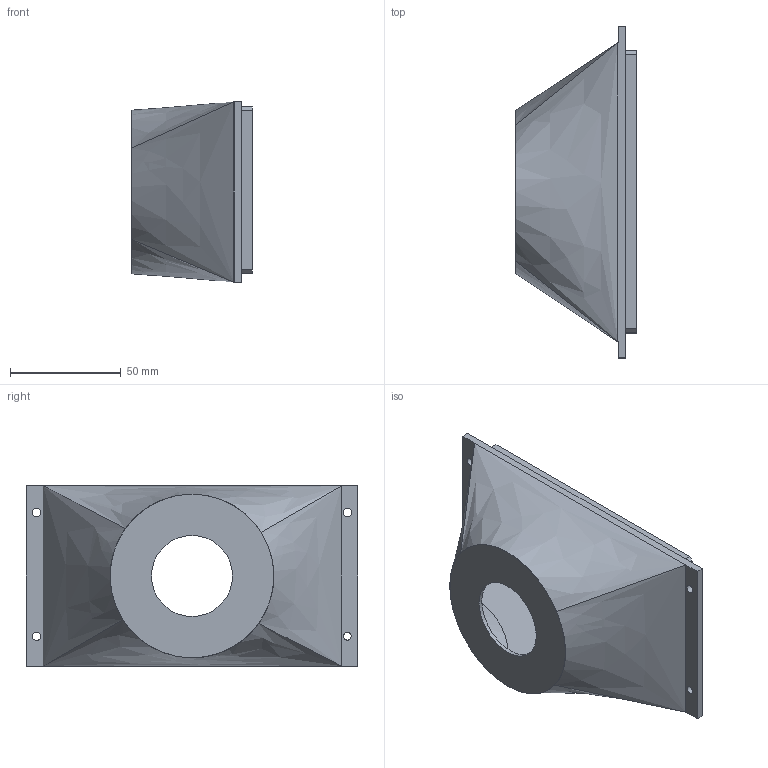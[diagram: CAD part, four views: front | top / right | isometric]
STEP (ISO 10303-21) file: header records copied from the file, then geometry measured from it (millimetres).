
FILE_DESCRIPTION(/* description */ (''),/* implementation_level */ '2;1');
FILE_NAME(/* name */ 'C:/Users/mcjor/3D Objects/6x17 Camera/6x12/75mm cone.stp',/* time_stamp */ '2022-07-03T17:23:54+02:00',/* author */ (''),/* organization */ (''),/* preprocessor_version */ 'ST-DEVELOPER v15.2',/* originating_system */ 'Autodesk Translator Framework v2.0.0.5431',/* authorisation */ '');
FILE_SCHEMA (('AUTOMOTIVE_DESIGN { 1 0 10303 214 3 1 1 }'));
Length unit declared in the file: centimetre
Products named in the file (1): 75mm  cone
Bounding box: 54.53 x 150 x 81.51 mm (x, y, z)
Volume: 57541.6 mm3; surface area: 50223.9 mm2
Topology: 1 solids, 1 shells, 44 faces, 116 edges, 76 vertices
Faces by surface type: plane 29, bspline 9, cylinder 6
Full cylindrical faces by diameter (mm): 3.439 x1, 3.839 x3, 36.6 x1, 74 x1
Entity records: 1679 total; most frequent: CARTESIAN_POINT 632, ORIENTED_EDGE 220, DIRECTION 174, EDGE_CURVE 110, VERTEX_POINT 76, LINE 70, VECTOR 70, EDGE_LOOP 62
